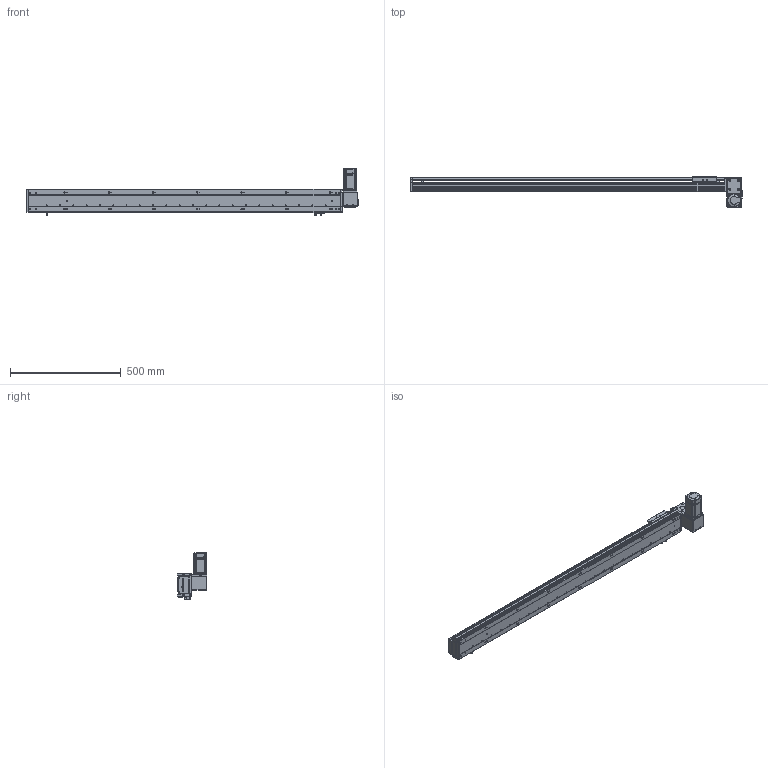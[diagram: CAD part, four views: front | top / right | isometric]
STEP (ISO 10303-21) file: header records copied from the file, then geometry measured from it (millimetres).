
FILE_DESCRIPTION (( 'STEP AP203' ), '1' );
FILE_NAME ('RY100-T-300-DR.SLDASM_1200.step', '2024-04-25T03:23:13', ( '盈信电脑' ), ( '东莞市道滘镇水果街19号' ), 'SwSTEP 2.0', 'SolidWorks 2016', '' );
FILE_SCHEMA (( 'CONFIG_CONTROL_DESIGN' ));
Length unit declared in the file: millimetre
Products named in the file (16): RY100-T肮祭謫臏賑輸; RY100-T-300-RK倰第菁釱_1200; RY100-T左右折电机安装板; RY100-T-300-RK倰第奻裔_1200; RY100俋离覜茼え; RY100-T翋肮祭謫裔啣2; 覜茼ん672; RY80-T肮祭謫狟殏俋欶; RY100綴裔啣; 滅袉蝶18-10; RY100-T粣創揤踡裔; 1; RY100-T肮祭謫翋盓傅釱; RY100-T-300-DR.SLDASM_1200; RY100-T翋肮祭謫裔啣; 侂狟200W萇儂
Assembly tree (19 placements, depth 3):
  RY100-T-300-DR.SLDASM_1200
    RY100-T-300-RK倰第菁釱_1200
    RY100-T-300-RK倰第奻裔_1200
    RY100-T肮祭謫臏賑輸
    RY100綴裔啣
    覜茼ん672  x3
    RY100俋离覜茼え
    RY100-T肮祭謫翋盓傅釱
    RY100-T左右折电机安装板
    侂狟200W萇儂
      1
    RY100-T粣創揤踡裔
    滅袉蝶18-10  x2
    RY100-T翋肮祭謫裔啣2  x2
    RY100-T翋肮祭謫裔啣
    RY80-T肮祭謫狟殏俋欶
Bounding box: 1500 x 135.5 x 209.7 mm (x, y, z)
Volume: 2962976.6 mm3; surface area: 1234846 mm2
Topology: 18 solids, 18 shells, 2225 faces, 6181 edges, 4015 vertices
Faces by surface type: plane 1213, cylinder 803, cone 131, bspline 78
Entity records: 71146 total; most frequent: CARTESIAN_POINT 17050, ORIENTED_EDGE 11098, DIRECTION 10589, EDGE_CURVE 5549, VERTEX_POINT 3651, VECTOR 3595, LINE 3595, AXIS2_PLACEMENT_3D 3497
